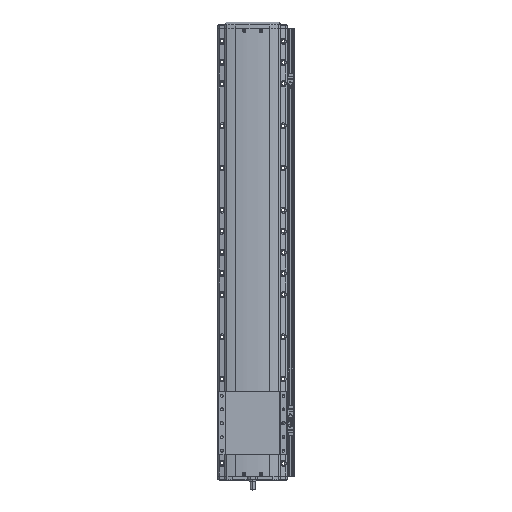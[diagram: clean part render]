
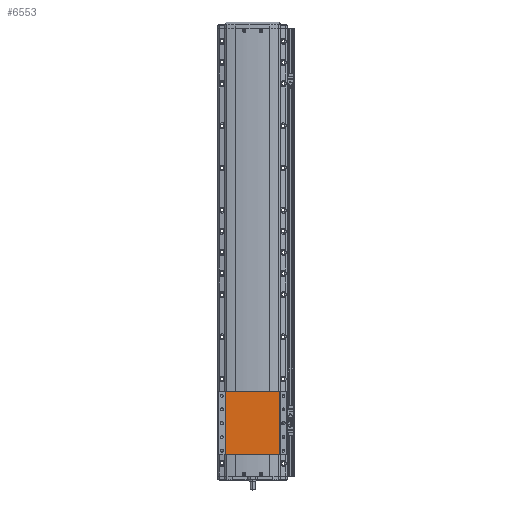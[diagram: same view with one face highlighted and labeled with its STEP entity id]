
A CAD part, top view. The second image highlights one B-rep face of the part: STEP entity #6553.
In plain terms, the highlighted planar face has unit normal (0, 0, 1).
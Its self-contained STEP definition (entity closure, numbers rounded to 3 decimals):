
#6553=ADVANCED_FACE('',(#13696),#13697,.F.);
#13696=FACE_OUTER_BOUND('',#23346,.T.);
#13697=PLANE('',#23347);
#23346=EDGE_LOOP('',(#43062,#43063,#43064,#43065));
#23347=AXIS2_PLACEMENT_3D('',#43066,#43067,#43068);
#43062=ORIENTED_EDGE('',*,*,#52339,.F.);
#43063=ORIENTED_EDGE('',*,*,#49276,.F.);
#43064=ORIENTED_EDGE('',*,*,#49036,.F.);
#43065=ORIENTED_EDGE('',*,*,#56755,.T.);
#43066=CARTESIAN_POINT('',(-600.,-27.778,51.5));
#43067=DIRECTION('',(0.,0.,-1.0));
#43068=DIRECTION('',(-1.0,0.,0.));
#49036=EDGE_CURVE('',#58298,#58300,#58301,.T.);
#49276=EDGE_CURVE('',#58300,#58739,#58742,.T.);
#52339=EDGE_CURVE('',#58739,#63878,#63879,.T.);
#56755=EDGE_CURVE('',#58298,#63878,#69993,.T.);
#58298=VERTEX_POINT('',#71813);
#58300=VERTEX_POINT('',#71815);
#58301=LINE('',#71816,#71817);
#58739=VERTEX_POINT('',#72490);
#58742=LINE('',#72494,#72495);
#63878=VERTEX_POINT('',#79975);
#63879=LINE('',#79976,#79977);
#69993=LINE('',#89283,#89284);
#71813=CARTESIAN_POINT('',(-535.624,-27.778,51.5));
#71815=CARTESIAN_POINT('',(-664.376,-27.778,51.5));
#71816=CARTESIAN_POINT('',(-535.624,-27.778,51.5));
#71817=VECTOR('',#91279,10.0);
#72490=CARTESIAN_POINT('',(-664.376,122.222,51.5));
#72494=CARTESIAN_POINT('',(-664.376,-27.778,51.5));
#72495=VECTOR('',#91628,10.0);
#79975=CARTESIAN_POINT('',(-535.624,122.222,51.5));
#79976=CARTESIAN_POINT('',(-535.624,122.222,51.5));
#79977=VECTOR('',#95378,10.0);
#89283=CARTESIAN_POINT('',(-535.624,-27.778,51.5));
#89284=VECTOR('',#100371,10.0);
#91279=DIRECTION('',(-1.0,0.,0.));
#91628=DIRECTION('',(0.,1.0,0.));
#95378=DIRECTION('',(1.0,0.,0.));
#100371=DIRECTION('',(0.,1.0,0.));
